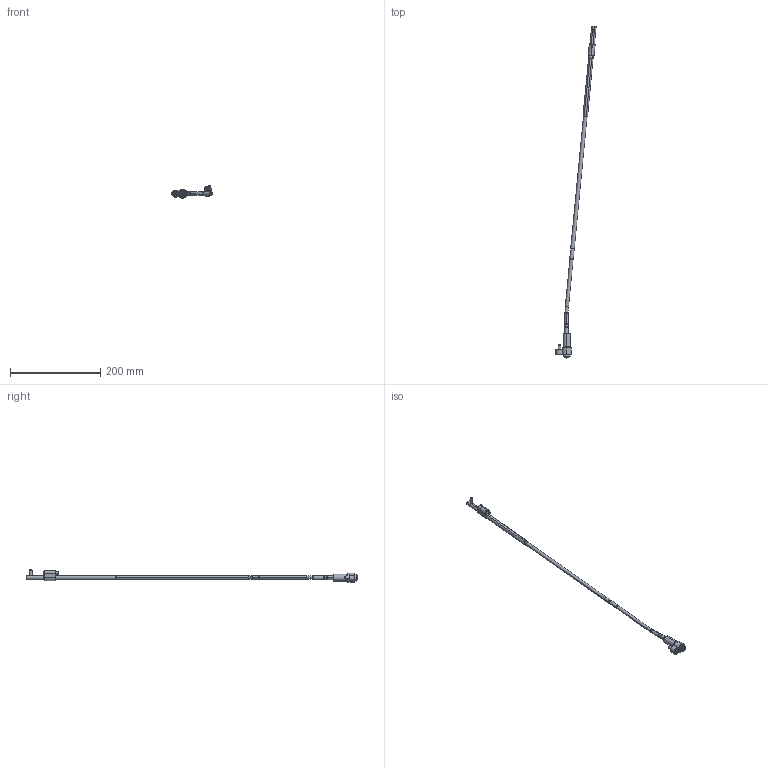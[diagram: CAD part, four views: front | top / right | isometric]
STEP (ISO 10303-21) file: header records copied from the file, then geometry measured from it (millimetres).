
FILE_DESCRIPTION (( 'STEP AP214' ), '1' );
FILE_NAME ('WL080100L-EJE 5,5°.STEP', '2021-03-19T15:25:13', ( '' ), ( '' ), 'SwSTEP 2.0', 'SolidWorks 2019', '' );
FILE_SCHEMA (( 'AUTOMOTIVE_DESIGN' ));
Length unit declared in the file: millimetre
Products named in the file (17): WL080100-B1_WL0800FF-1; Web-WL08-F00.SLDPRT; 3IMAN4X2-150_con sello; Web-WL08XX-A7_ON-WL080100-5,5; Web-WL08-A3; 1DIN912616_DIN 912 M6 x 16 --- 16C; Web-WP08-1; 1DIN912545_DIN 912 M5 x 50 --- 50C; WL080100-E; Web-WL08-F01; WL080100-D; Web-WL08-A2; WL080100-C; WL080100-B_WL0800FF; 9DR2206-TOR; WL080100L-EJE 5,5°; Web-WL08-A1
Assembly tree (16 placements, depth 3):
  WL080100L-EJE 5,5°
    Web-WP08-1
    Web-WL08XX-A7_ON-WL080100-5,5
    Web-WL08-A3
    Web-WL08-A2
    Web-WL08-A1
    WL080100-D
    WL080100-C
    WL080100-B_WL0800FF
      WL080100-B1_WL0800FF-1
      3IMAN4X2-150_con sello
    WL080100-E
    9DR2206-TOR
    Web-WL08-F00.SLDPRT
      Web-WL08-F01
      1DIN912545_DIN 912 M5 x 50 --- 50C
      1DIN912616_DIN 912 M6 x 16 --- 16C
Bounding box: 89.2 x 734.56 x 26.9 mm (x, y, z)
Volume: 57313.7 mm3; surface area: 33636.1 mm2
Topology: 15 solids, 15 shells, 424 faces, 888 edges, 516 vertices
Faces by surface type: plane 132, cylinder 128, cone 116, torus 48
Entity records: 13492 total; most frequent: DIRECTION 2218, CARTESIAN_POINT 2045, ORIENTED_EDGE 1756, AXIS2_PLACEMENT_3D 921, EDGE_CURVE 878, VERTEX_POINT 516, CIRCLE 476, EDGE_LOOP 468
